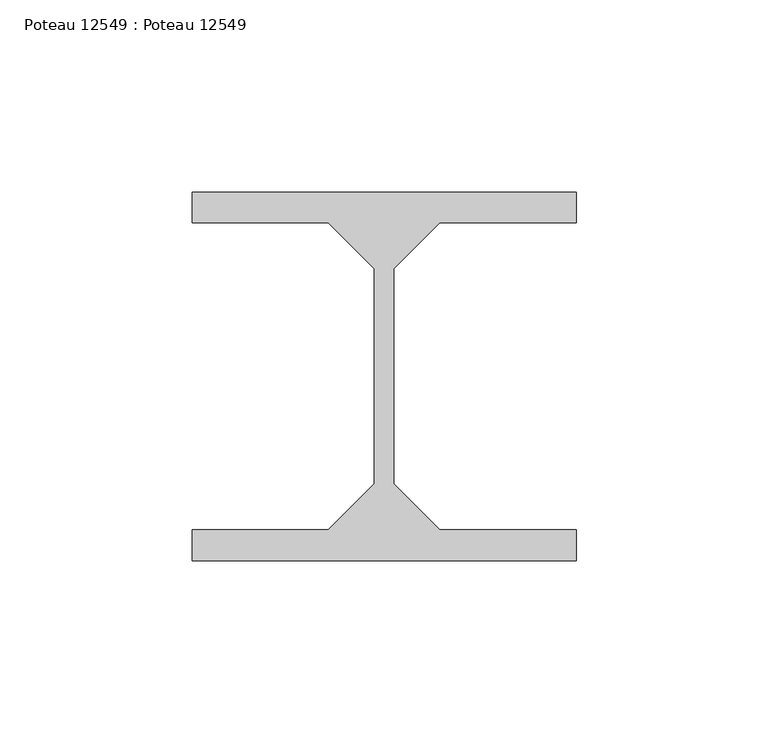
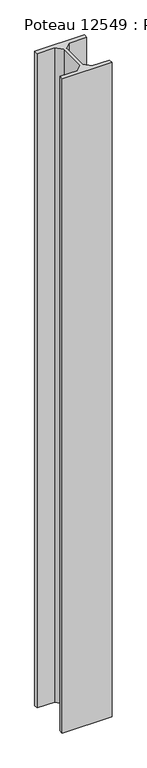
"""IFC4 building model written with IfcOpenShell, lengths in millimetres: beam geometry, Poteau 12549 : Poteau 12549."""

from ifc_helpers import new_model, si_unit, frame, origin, place, context, project, spatial, polyline, outline, extrude, source, transform, mapped, element, save


def poteau_12549_poteau_12549_c3c3fcf7(model_context):
    return source(origin(), model_context, "Body", "SweptSolid", [
        extrude(outline(polyline([(11447.4999999, -1.0), (11447.4999999, 7.0), (11482.9999999, 7.0), (11494.9999999, 19.0), (11494.9999999, 75.0), (11482.9999999, 87.0), (11447.4999999, 87.0), (11447.4999999, 95.0), (11547.4999999, 95.0), (11547.4999999, 87.0), (11511.9999999, 87.0), (11499.9999999, 75.0), (11499.9999999, 19.0), (11511.9999999, 7.0), (11547.4999999, 7.0), (11547.4999999, -1.0), (11447.4999999, -1.0)])), frame((0.0, 0.0, 7058.8384819), z_axis=(0.0, 0.0, 1.0), x_axis=(1.0, 0.0, 0.0)), (0.0, 0.0, 1.0), 1391.1615181),
    ])


if __name__ == "__main__":
    model = new_model("IFC4")
    model_context = context("Model", 3, world=origin())
    ifc_project = project(units=[si_unit("LENGTHUNIT", "METRE", prefix="MILLI")], contexts=[model_context])
    site = spatial("IfcSite", under=ifc_project)
    building = spatial("IfcBuilding", under=site)
    placement = place(None, origin())
    poteau_12549_poteau_12549_shape = poteau_12549_poteau_12549_c3c3fcf7(model_context)
    element("IfcBeam", 1, ObjectType="Poteau 12549 : Poteau 12549", at=placement, inside=building, context=model_context, shape_type="MappedRepresentation", body=[
        mapped(poteau_12549_poteau_12549_shape, transform((0.0, 0.0, 0.0), x_axis=(1.0, 0.0, 0.0), y_axis=(0.0, 1.0, 0.0), z_axis=(0.0, 0.0, 1.0))),
    ])
    save(model, "model.ifc")
